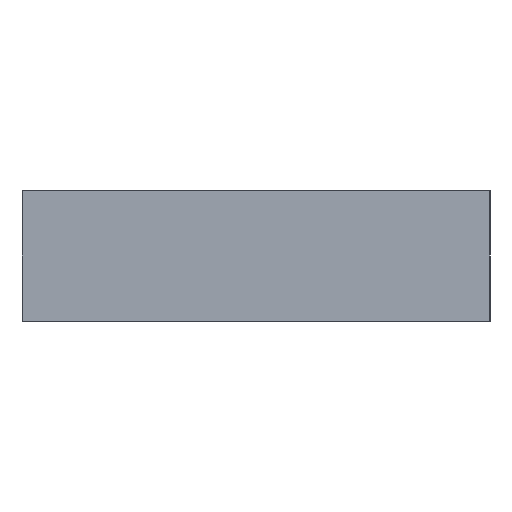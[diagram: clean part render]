
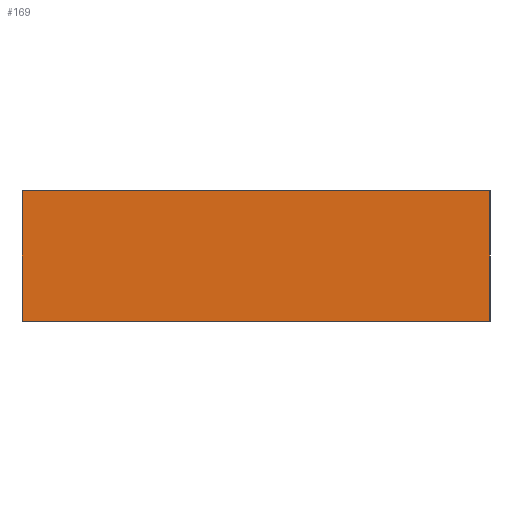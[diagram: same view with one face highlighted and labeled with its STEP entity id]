
A CAD part, left-side view. The second image highlights one B-rep face of the part: STEP entity #169.
In plain terms, the highlighted planar face has unit normal (-1, 0, 0).
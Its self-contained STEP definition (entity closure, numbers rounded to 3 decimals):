
#1 = DIRECTION ( 'NONE',  ( 1., 0., 0. ) ) ;
#55 = EDGE_CURVE ( 'NONE', #566, #556, #377, .T. ) ;
#60 = EDGE_CURVE ( 'NONE', #566, #551, #321, .T. ) ;
#87 = EDGE_CURVE ( 'NONE', #556, #550, #295, .T. ) ;
#112 = EDGE_CURVE ( 'NONE', #551, #550, #239, .T. ) ;
#128 = AXIS2_PLACEMENT_3D ( 'NONE', #135, #1, #270 ) ;
#135 = CARTESIAN_POINT ( 'NONE',  ( -251., 0., 120. ) ) ;
#140 = PLANE ( 'NONE',  #128 ) ;
#169 = ADVANCED_FACE ( 'NONE', ( #212 ), #140, .F. ) ;
#212 = FACE_OUTER_BOUND ( 'NONE', #795, .T. ) ;
#238 = VECTOR ( 'NONE', #708, 1000. ) ;
#239 = LINE ( 'NONE', #709, #238 ) ;
#270 = DIRECTION ( 'NONE',  ( 0., 1., 0. ) ) ;
#295 = LINE ( 'NONE', #702, #326 ) ;
#321 = LINE ( 'NONE', #423, #357 ) ;
#326 = VECTOR ( 'NONE', #703, 1000. ) ;
#343 = VECTOR ( 'NONE', #422, 1000. ) ;
#357 = VECTOR ( 'NONE', #412, 1000. ) ;
#377 = LINE ( 'NONE', #429, #343 ) ;
#412 = DIRECTION ( 'NONE',  ( 0., 0., -1. ) ) ;
#422 = DIRECTION ( 'NONE',  ( 0., -1., 0. ) ) ;
#423 = CARTESIAN_POINT ( 'NONE',  ( -251., 429., 120. ) ) ;
#429 = CARTESIAN_POINT ( 'NONE',  ( -251., 0., 120. ) ) ;
#550 = VERTEX_POINT ( 'NONE', #600 ) ;
#551 = VERTEX_POINT ( 'NONE', #601 ) ;
#556 = VERTEX_POINT ( 'NONE', #604 ) ;
#566 = VERTEX_POINT ( 'NONE', #598 ) ;
#598 = CARTESIAN_POINT ( 'NONE',  ( -251., 429., 120. ) ) ;
#600 = CARTESIAN_POINT ( 'NONE',  ( -251., 0., 0. ) ) ;
#601 = CARTESIAN_POINT ( 'NONE',  ( -251., 429., 0. ) ) ;
#604 = CARTESIAN_POINT ( 'NONE',  ( -251., 0., 120. ) ) ;
#702 = CARTESIAN_POINT ( 'NONE',  ( -251., 0., 120. ) ) ;
#703 = DIRECTION ( 'NONE',  ( 0., 0., -1. ) ) ;
#708 = DIRECTION ( 'NONE',  ( 0., -1., 0. ) ) ;
#709 = CARTESIAN_POINT ( 'NONE',  ( -251., 0., 0. ) ) ;
#795 = EDGE_LOOP ( 'NONE', ( #840, #823, #942, #850 ) ) ;
#823 = ORIENTED_EDGE ( 'NONE', *, *, #87, .F. ) ;
#840 = ORIENTED_EDGE ( 'NONE', *, *, #112, .T. ) ;
#850 = ORIENTED_EDGE ( 'NONE', *, *, #60, .T. ) ;
#942 = ORIENTED_EDGE ( 'NONE', *, *, #55, .F. ) ;
